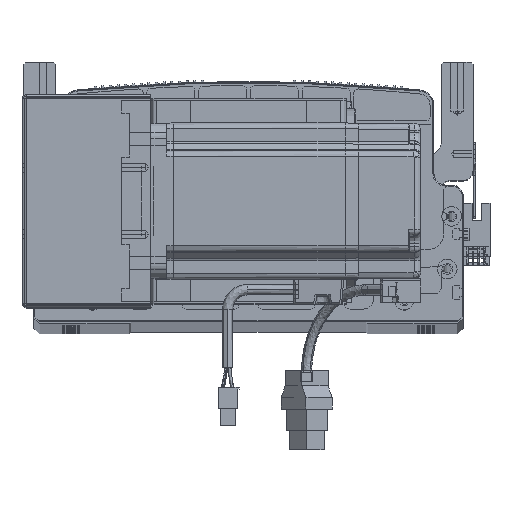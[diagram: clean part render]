
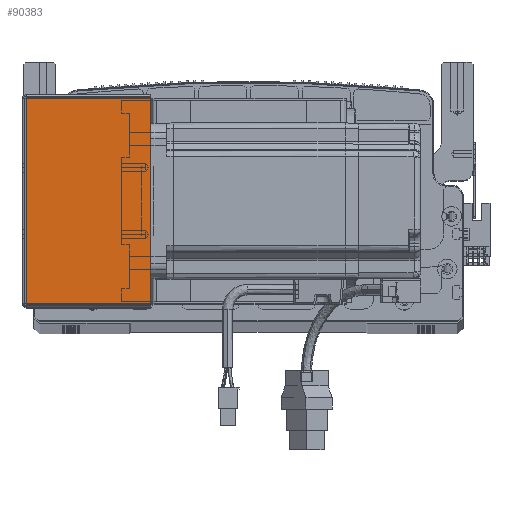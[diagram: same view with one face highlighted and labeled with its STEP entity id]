
A CAD part, top view. The second image highlights one B-rep face of the part: STEP entity #90383.
In plain terms, the highlighted planar face has unit normal (0, 0, 1) as drawn and (0, 0, -1) by its records, which use the part's own axes.
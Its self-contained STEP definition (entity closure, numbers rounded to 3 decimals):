
#3820 = LINE ( 'NONE', #95579, #82846 ) ;
#10062 = CARTESIAN_POINT ( 'NONE',  ( 0.737, 0.707, -205.5 ) ) ;
#10155 = EDGE_CURVE ( 'NONE', #37917, #71445, #25966, .T. ) ;
#10399 = CARTESIAN_POINT ( 'NONE',  ( 0.737, 105.293, -205.5 ) ) ;
#13318 = DIRECTION ( 'NONE',  ( 0., -1., 0. ) ) ;
#14055 = ORIENTED_EDGE ( 'NONE', *, *, #94449, .F. ) ;
#14958 = CARTESIAN_POINT ( 'NONE',  ( 0., 0., -205.5 ) ) ;
#17672 = ORIENTED_EDGE ( 'NONE', *, *, #10155, .T. ) ;
#22626 = DIRECTION ( 'NONE',  ( 0., 0., 1. ) ) ;
#23376 = CARTESIAN_POINT ( 'NONE',  ( 64.5, 105.293, -205.5 ) ) ;
#24259 = CARTESIAN_POINT ( 'NONE',  ( 64.5, 0.707, -205.5 ) ) ;
#25966 = LINE ( 'NONE', #81501, #97807 ) ;
#25968 = VERTEX_POINT ( 'NONE', #10062 ) ;
#32700 = DIRECTION ( 'NONE',  ( 1., 0., 0. ) ) ;
#36575 = VECTOR ( 'NONE', #13318, 1000. ) ;
#37672 = PLANE ( 'NONE',  #69924 ) ;
#37917 = VERTEX_POINT ( 'NONE', #10399 ) ;
#43440 = ORIENTED_EDGE ( 'NONE', *, *, #84092, .T. ) ;
#46252 = EDGE_CURVE ( 'NONE', #25968, #65264, #48102, .T. ) ;
#48102 = LINE ( 'NONE', #78632, #64938 ) ;
#50384 = FACE_OUTER_BOUND ( 'NONE', #76882, .T. ) ;
#51781 = CARTESIAN_POINT ( 'NONE',  ( 64.5, 0., -205.5 ) ) ;
#64938 = VECTOR ( 'NONE', #32700, 1000. ) ;
#65163 = DIRECTION ( 'NONE',  ( 0., -1., 0. ) ) ;
#65264 = VERTEX_POINT ( 'NONE', #24259 ) ;
#66298 = ORIENTED_EDGE ( 'NONE', *, *, #46252, .F. ) ;
#69924 = AXIS2_PLACEMENT_3D ( 'NONE', #14958, #22626, #76271 ) ;
#70180 = LINE ( 'NONE', #51781, #36575 ) ;
#71445 = VERTEX_POINT ( 'NONE', #23376 ) ;
#76271 = DIRECTION ( 'NONE',  ( 1., 0., 0. ) ) ;
#76882 = EDGE_LOOP ( 'NONE', ( #14055, #17672, #43440, #66298 ) ) ;
#78632 = CARTESIAN_POINT ( 'NONE',  ( 0., 0.707, -205.5 ) ) ;
#81176 = DIRECTION ( 'NONE',  ( 1., 0., 0. ) ) ;
#81501 = CARTESIAN_POINT ( 'NONE',  ( 0., 105.293, -205.5 ) ) ;
#82846 = VECTOR ( 'NONE', #65163, 1000. ) ;
#84092 = EDGE_CURVE ( 'NONE', #71445, #65264, #70180, .T. ) ;
#90383 = ADVANCED_FACE ( 'NONE', ( #50384 ), #37672, .F. ) ;
#94449 = EDGE_CURVE ( 'NONE', #37917, #25968, #3820, .T. ) ;
#95579 = CARTESIAN_POINT ( 'NONE',  ( 0.737, 0., -205.5 ) ) ;
#97807 = VECTOR ( 'NONE', #81176, 1000. ) ;
